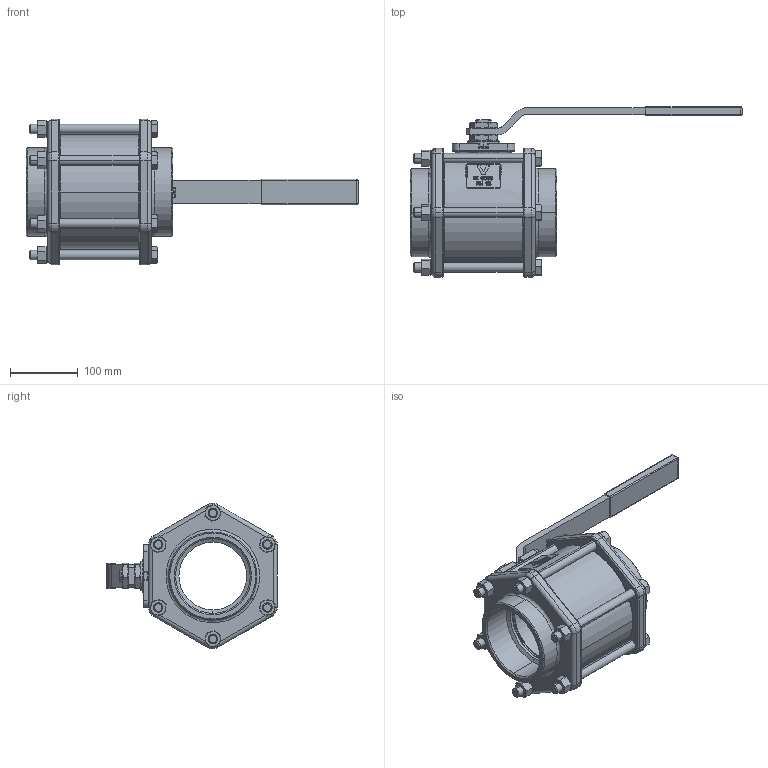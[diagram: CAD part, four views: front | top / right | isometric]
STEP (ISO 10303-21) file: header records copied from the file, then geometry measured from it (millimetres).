
FILE_DESCRIPTION (( 'STEP AP203' ), '1' );
FILE_NAME ('71000018.STEP', '2010-11-13T10:25:40', ( '.' ), ( '.' ), 'SwSTEP 2.0', 'SolidWorks 2008', '' );
FILE_SCHEMA (( 'CONFIG_CONTROL_DESIGN' ));
Products named in the file (1): 71000018
Bounding box: 489.85 x 251.5 x 214.91 mm (x, y, z)
Volume: 2912278.9 mm3; surface area: 532987.5 mm2
Topology: 19 solids, 19 shells, 4173 faces, 11764 edges, 7632 vertices
Faces by surface type: plane 1800, cone 1713, cylinder 334, bspline 318, torus 8
Entity records: 155668 total; most frequent: CARTESIAN_POINT 52925, ORIENTED_EDGE 23476, DIRECTION 19487, EDGE_CURVE 11738, VERTEX_POINT 7632, AXIS2_PLACEMENT_3D 7585, VECTOR 4317, LINE 4317
